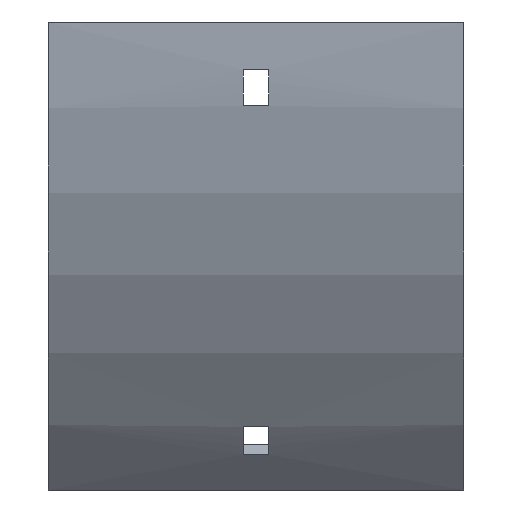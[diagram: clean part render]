
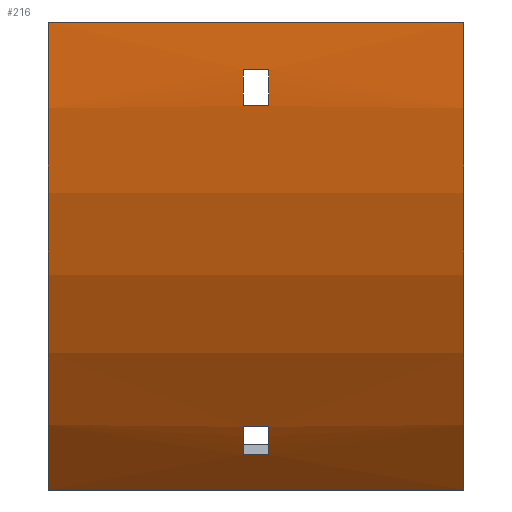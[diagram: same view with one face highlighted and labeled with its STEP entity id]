
A CAD part, front view. The second image highlights one B-rep face of the part: STEP entity #216.
In plain terms, the highlighted cylindrical face has radius 165.5 mm (diameter 331 mm), a partial arc.
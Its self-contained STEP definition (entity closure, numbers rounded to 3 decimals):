
#33 = LINE ( 'NONE', #393, #261 ) ;
#48 = VERTEX_POINT ( 'NONE', #876 ) ;
#54 = ORIENTED_EDGE ( 'NONE', *, *, #146, .F. ) ;
#55 = FACE_BOUND ( 'NONE', #416, .T. ) ;
#78 = DIRECTION ( 'NONE',  ( 0., 0., -1. ) ) ;
#100 = ORIENTED_EDGE ( 'NONE', *, *, #360, .T. ) ;
#106 = ORIENTED_EDGE ( 'NONE', *, *, #461, .F. ) ;
#118 = VERTEX_POINT ( 'NONE', #1131 ) ;
#119 = CIRCLE ( 'NONE', #777, 165.5 ) ;
#126 = DIRECTION ( 'NONE',  ( 1., 0., 0. ) ) ;
#146 = EDGE_CURVE ( 'NONE', #1024, #635, #878, .T. ) ;
#150 = CYLINDRICAL_SURFACE ( 'NONE', #1144, 165.5 ) ;
#165 = DIRECTION ( 'NONE',  ( -1., 0., 0. ) ) ;
#175 = CARTESIAN_POINT ( 'NONE',  ( 52., -64.162, -21. ) ) ;
#207 = VERTEX_POINT ( 'NONE', #763 ) ;
#212 = DIRECTION ( 'NONE',  ( 1., 0., 0. ) ) ;
#215 = VERTEX_POINT ( 'NONE', #1031 ) ;
#216 = ADVANCED_FACE ( 'NONE', ( #499, #55, #1136 ), #150, .T. ) ;
#246 = ORIENTED_EDGE ( 'NONE', *, *, #569, .T. ) ;
#261 = VECTOR ( 'NONE', #740, 1000. ) ;
#267 = VECTOR ( 'NONE', #519, 1000. ) ;
#274 = CIRCLE ( 'NONE', #920, 165.5 ) ;
#279 = ORIENTED_EDGE ( 'NONE', *, *, #474, .T. ) ;
#300 = DIRECTION ( 'NONE',  ( 0., 0., 1. ) ) ;
#308 = CARTESIAN_POINT ( 'NONE',  ( 52., 100., 0. ) ) ;
#309 = CARTESIAN_POINT ( 'NONE',  ( 3.25, 100., 0. ) ) ;
#321 = ORIENTED_EDGE ( 'NONE', *, *, #589, .F. ) ;
#327 = VECTOR ( 'NONE', #1119, 1000. ) ;
#337 = CIRCLE ( 'NONE', #1046, 165.5 ) ;
#359 = EDGE_CURVE ( 'NONE', #1035, #1024, #1085, .T. ) ;
#360 = EDGE_CURVE ( 'NONE', #382, #48, #119, .T. ) ;
#382 = VERTEX_POINT ( 'NONE', #1012 ) ;
#393 = CARTESIAN_POINT ( 'NONE',  ( 52., -65.5, 0. ) ) ;
#401 = CIRCLE ( 'NONE', #431, 165.5 ) ;
#402 = VERTEX_POINT ( 'NONE', #958 ) ;
#403 = CARTESIAN_POINT ( 'NONE',  ( 3.25, -30.929, -101.231 ) ) ;
#416 = EDGE_LOOP ( 'NONE', ( #807, #279, #450, #100 ) ) ;
#421 = DIRECTION ( 'NONE',  ( 0., 0., 1. ) ) ;
#431 = AXIS2_PLACEMENT_3D ( 'NONE', #566, #1098, #300 ) ;
#438 = VERTEX_POINT ( 'NONE', #978 ) ;
#449 = ORIENTED_EDGE ( 'NONE', *, *, #935, .T. ) ;
#450 = ORIENTED_EDGE ( 'NONE', *, *, #487, .T. ) ;
#461 = EDGE_CURVE ( 'NONE', #635, #601, #1140, .T. ) ;
#470 = DIRECTION ( 'NONE',  ( 0., 0., -1. ) ) ;
#471 = VECTOR ( 'NONE', #946, 1000. ) ;
#474 = EDGE_CURVE ( 'NONE', #118, #215, #489, .T. ) ;
#475 = CARTESIAN_POINT ( 'NONE',  ( -3.25, -30.929, -101.231 ) ) ;
#476 = DIRECTION ( 'NONE',  ( 1., 0., 0. ) ) ;
#487 = EDGE_CURVE ( 'NONE', #215, #382, #674, .T. ) ;
#489 = CIRCLE ( 'NONE', #1138, 165.5 ) ;
#499 = FACE_OUTER_BOUND ( 'NONE', #718, .T. ) ;
#511 = LINE ( 'NONE', #1143, #267 ) ;
#512 = CARTESIAN_POINT ( 'NONE',  ( 52., -25.203, -108.233 ) ) ;
#519 = DIRECTION ( 'NONE',  ( -1., 0., 0. ) ) ;
#534 = DIRECTION ( 'NONE',  ( -1., 0., 0. ) ) ;
#566 = CARTESIAN_POINT ( 'NONE',  ( 3.25, 100., 0. ) ) ;
#569 = EDGE_CURVE ( 'NONE', #613, #402, #33, .T. ) ;
#589 = EDGE_CURVE ( 'NONE', #601, #1035, #401, .T. ) ;
#593 = CARTESIAN_POINT ( 'NONE',  ( 52., -65.064, -12. ) ) ;
#594 = ORIENTED_EDGE ( 'NONE', *, *, #607, .F. ) ;
#597 = VECTOR ( 'NONE', #736, 1000. ) ;
#601 = VERTEX_POINT ( 'NONE', #652 ) ;
#603 = DIRECTION ( 'NONE',  ( -1., 0., 0. ) ) ;
#607 = EDGE_CURVE ( 'NONE', #613, #438, #274, .T. ) ;
#613 = VERTEX_POINT ( 'NONE', #826 ) ;
#635 = VERTEX_POINT ( 'NONE', #746 ) ;
#652 = CARTESIAN_POINT ( 'NONE',  ( 3.25, -25.203, -108.233 ) ) ;
#659 = ORIENTED_EDGE ( 'NONE', *, *, #359, .F. ) ;
#673 = EDGE_CURVE ( 'NONE', #438, #207, #511, .T. ) ;
#674 = LINE ( 'NONE', #593, #471 ) ;
#710 = LINE ( 'NONE', #175, #1145 ) ;
#718 = EDGE_LOOP ( 'NONE', ( #449, #792, #594, #246 ) ) ;
#736 = DIRECTION ( 'NONE',  ( -1., 0., 0. ) ) ;
#740 = DIRECTION ( 'NONE',  ( -1., 0., 0. ) ) ;
#746 = CARTESIAN_POINT ( 'NONE',  ( -3.25, -25.203, -108.233 ) ) ;
#756 = CARTESIAN_POINT ( 'NONE',  ( 52., 100., 0. ) ) ;
#763 = CARTESIAN_POINT ( 'NONE',  ( -52., -17.026, -117.026 ) ) ;
#777 = AXIS2_PLACEMENT_3D ( 'NONE', #309, #212, #837 ) ;
#780 = EDGE_LOOP ( 'NONE', ( #54, #659, #321, #106 ) ) ;
#792 = ORIENTED_EDGE ( 'NONE', *, *, #673, .F. ) ;
#807 = ORIENTED_EDGE ( 'NONE', *, *, #841, .T. ) ;
#826 = CARTESIAN_POINT ( 'NONE',  ( 52., -65.5, 0. ) ) ;
#837 = DIRECTION ( 'NONE',  ( 0., 0., -1. ) ) ;
#841 = EDGE_CURVE ( 'NONE', #48, #118, #710, .T. ) ;
#867 = CARTESIAN_POINT ( 'NONE',  ( -3.25, 100., 0. ) ) ;
#871 = DIRECTION ( 'NONE',  ( 1., 0., 0. ) ) ;
#876 = CARTESIAN_POINT ( 'NONE',  ( 3.25, -64.162, -21. ) ) ;
#878 = CIRCLE ( 'NONE', #1029, 165.5 ) ;
#920 = AXIS2_PLACEMENT_3D ( 'NONE', #308, #476, #1010 ) ;
#935 = EDGE_CURVE ( 'NONE', #402, #207, #337, .T. ) ;
#946 = DIRECTION ( 'NONE',  ( 1., 0., 0. ) ) ;
#958 = CARTESIAN_POINT ( 'NONE',  ( -52., -65.5, 0. ) ) ;
#978 = CARTESIAN_POINT ( 'NONE',  ( 52., -17.026, -117.026 ) ) ;
#996 = CARTESIAN_POINT ( 'NONE',  ( 52., -30.929, -101.231 ) ) ;
#1010 = DIRECTION ( 'NONE',  ( 0., 0., -1. ) ) ;
#1012 = CARTESIAN_POINT ( 'NONE',  ( 3.25, -65.064, -12. ) ) ;
#1024 = VERTEX_POINT ( 'NONE', #475 ) ;
#1029 = AXIS2_PLACEMENT_3D ( 'NONE', #867, #871, #78 ) ;
#1031 = CARTESIAN_POINT ( 'NONE',  ( -3.25, -65.064, -12. ) ) ;
#1035 = VERTEX_POINT ( 'NONE', #403 ) ;
#1040 = CARTESIAN_POINT ( 'NONE',  ( -3.25, 100., 0. ) ) ;
#1046 = AXIS2_PLACEMENT_3D ( 'NONE', #1055, #126, #470 ) ;
#1055 = CARTESIAN_POINT ( 'NONE',  ( -52., 100., 0. ) ) ;
#1085 = LINE ( 'NONE', #996, #597 ) ;
#1098 = DIRECTION ( 'NONE',  ( -1., 0., 0. ) ) ;
#1115 = DIRECTION ( 'NONE',  ( 0., 0., 1. ) ) ;
#1119 = DIRECTION ( 'NONE',  ( 1., 0., 0. ) ) ;
#1131 = CARTESIAN_POINT ( 'NONE',  ( -3.25, -64.162, -21. ) ) ;
#1136 = FACE_BOUND ( 'NONE', #780, .T. ) ;
#1138 = AXIS2_PLACEMENT_3D ( 'NONE', #1040, #165, #421 ) ;
#1140 = LINE ( 'NONE', #512, #327 ) ;
#1143 = CARTESIAN_POINT ( 'NONE',  ( 52., -17.026, -117.026 ) ) ;
#1144 = AXIS2_PLACEMENT_3D ( 'NONE', #756, #603, #1115 ) ;
#1145 = VECTOR ( 'NONE', #534, 1000. ) ;
